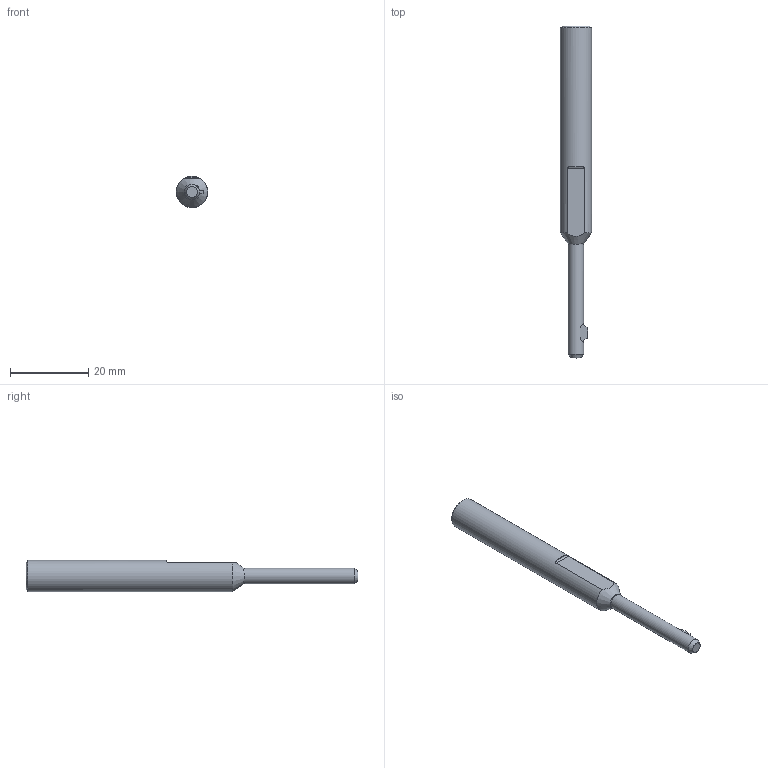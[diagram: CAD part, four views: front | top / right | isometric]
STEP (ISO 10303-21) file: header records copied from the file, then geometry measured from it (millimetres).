
FILE_DESCRIPTION(/* description */ (''),/* implementation_level */ '2;1');
FILE_NAME(/* name */ 'X:\EDF\EDF-OPEN\EDF-865\מודל מעודכן\U burr\קבצי STEP\Assembly of uburr 4 standard_Simplify_1.stp',/* time_stamp */ '2023-03-02T11:20:52+02:00',/* author */ ('adva'),/* organization */ (''),/* preprocessor_version */ 'ST-DEVELOPER v18.1',/* originating_system */ 'Autodesk Inventor 2022',/* authorisation */ '');
FILE_SCHEMA (('CONFIG_CONTROL_DESIGN'));
Length unit declared in the file: millimetre
Products named in the file (1): Assembly of uburr 4 standard_Simplify_1
Bounding box: 8 x 85 x 8 mm (x, y, z)
Volume: 3054.1 mm3; surface area: 1809.2 mm2
Topology: 1 solids, 1 shells, 22 faces, 54 edges, 35 vertices
Faces by surface type: plane 11, cylinder 6, cone 3, torus 2
Full cylindrical faces by diameter (mm): 3.9 x1, 8 x1
Entity records: 781 total; most frequent: CARTESIAN_POINT 181, DIRECTION 115, ORIENTED_EDGE 108, EDGE_CURVE 54, AXIS2_PLACEMENT_3D 46, VERTEX_POINT 35, EDGE_LOOP 23, LINE 23
